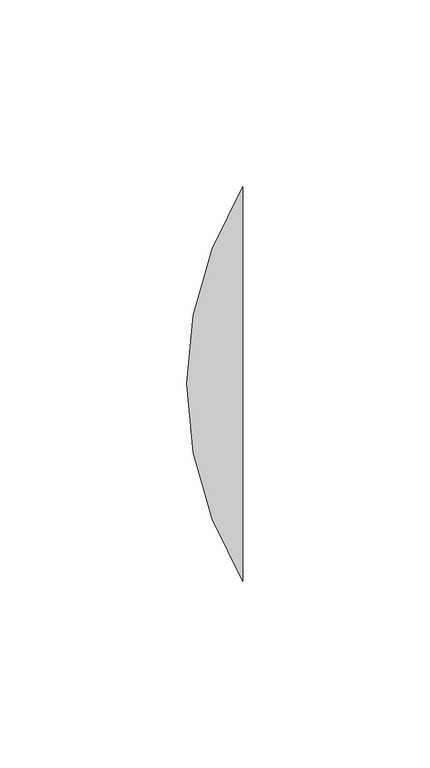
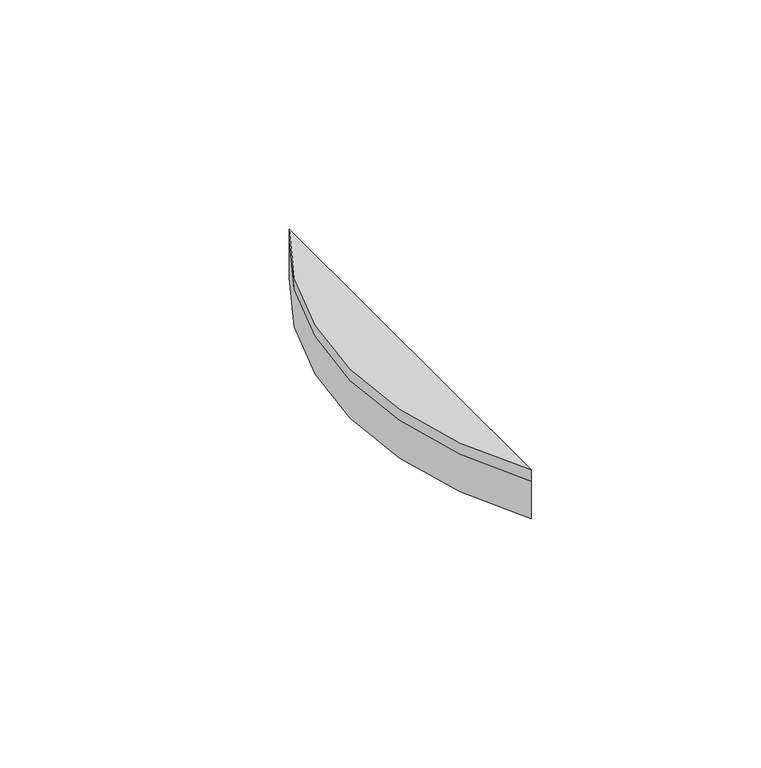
"""IFC4 building model written with IfcOpenShell, lengths in millimetres: proxy geometry, FilzFelt_Fish_Block : Fish Block."""

import ifcopenshell
import ifcopenshell.guid

model = None  # the IFC model being written
_history = None  # IfcOwnerHistory: only IFC2X3 demands one
_inside = {}  # id of a spatial element -> (the spatial element, [elements in it])
_under = {}  # id of a project, library or spatial element -> (it, [spatial elements below it])
_declared = {}  # id of a project -> (the project, [libraries it declares])
_typed = {}  # id of a type object -> (the type object, [elements of that type])
_made_of = {}  # id of a material, layer set ... -> (it, [elements and type objects made of it])


def new_model(schema):
    """Start an empty IFC model of exactly this schema.

    Asked for "IFC4X3", IfcOpenShell would pick the latest addendum, in which some entities
    have other attributes; the version numbers below select the first issue.
    IFC2X3 requires an IfcOwnerHistory on every rooted entity: one is made here for all.
    """
    global model, _history
    if schema == "IFC4X3":
        model = ifcopenshell.file(schema_version=(4, 3, 0, 0))
    else:
        model = ifcopenshell.file(schema=schema)
    _inside.clear()
    _under.clear()
    _declared.clear()
    _typed.clear()
    _made_of.clear()
    _history = None
    if model.schema == "IFC2X3":
        org = make("IfcOrganization", Name="unknown")
        user = make(
            "IfcPersonAndOrganization",
            ThePerson=make("IfcPerson", FamilyName="unknown"),
            TheOrganization=org,
        )
        app = make(
            "IfcApplication",
            ApplicationDeveloper=org,
            Version="unknown",
            ApplicationFullName="unknown",
            ApplicationIdentifier="unknown",
        )
        _history = make(
            "IfcOwnerHistory",
            OwningUser=user,
            OwningApplication=app,
            ChangeAction="ADDED",
            CreationDate=0,
        )
    return model


def make(cls, **values):
    """One entity of the class cls with the attributes given. An attribute that is None is left unset."""
    return model.create_entity(
        cls, **{name: value for name, value in values.items() if value is not None}
    )


def rooted(cls, **values):
    """An entity with a GlobalId (a new one), such as an element, a storey or a relation."""
    return make(cls, GlobalId=ifcopenshell.guid.new(), OwnerHistory=_history, **values)


def si_unit(unit_type, name, prefix=None):
    """IfcSIUnit, for example si_unit("LENGTHUNIT", "METRE", prefix="MILLI")."""
    return make("IfcSIUnit", UnitType=unit_type, Prefix=prefix, Name=name)


def assignment(units):
    """IfcUnitAssignment: the units of a project."""
    return None if units is None else make("IfcUnitAssignment", Units=units)


def point(xyz):
    """IfcCartesianPoint."""
    return None if xyz is None else make("IfcCartesianPoint", Coordinates=xyz)


def direction(xyz):
    """IfcDirection."""
    return None if xyz is None else make("IfcDirection", DirectionRatios=xyz)


def frame(location, z_axis=None, x_axis=None):
    """IfcAxis2Placement3D, a coordinate frame: its origin and axes. An axis left out is left unset."""
    return make(
        "IfcAxis2Placement3D",
        Location=point(location),
        Axis=direction(z_axis),
        RefDirection=direction(x_axis),
    )


def frame_2d(location, x_axis=None):
    """IfcAxis2Placement2D, a coordinate frame in the plane: its origin and x axis."""
    return make(
        "IfcAxis2Placement2D", Location=point(location), RefDirection=direction(x_axis)
    )


def origin():
    """The frame at (0, 0, 0) with its axes left unset."""
    return frame((0.0, 0.0, 0.0))


def origin_with_axes():
    """The frame at (0, 0, 0) with the z axis (0, 0, 1) and the x axis (1, 0, 0) written out."""
    return frame((0.0, 0.0, 0.0), z_axis=(0.0, 0.0, 1.0), x_axis=(1.0, 0.0, 0.0))


def place(relative_to, where):
    """IfcLocalPlacement: puts the frame where relative to a parent placement (None: the world)."""
    return make(
        "IfcLocalPlacement", PlacementRelTo=relative_to, RelativePlacement=where
    )


def context(
    kind, dimensions, precision=None, world=None, true_north=None, identifier=None
):
    """IfcGeometricRepresentationContext, for example the 3D "Model" context."""
    return make(
        "IfcGeometricRepresentationContext",
        ContextIdentifier=identifier,
        ContextType=kind,
        CoordinateSpaceDimension=dimensions,
        Precision=precision,
        WorldCoordinateSystem=world,
        TrueNorth=true_north,
    )


def project(units=None, contexts=None):
    """IfcProject with its units and contexts."""
    return rooted(
        "IfcProject",
        Name="project",
        RepresentationContexts=contexts,
        UnitsInContext=assignment(units),
    )


def spatial(cls, under=None, at=None, **own):
    """A site, building, storey or space (cls), placed at a placement, below another one or the project."""
    s = rooted(cls, ObjectPlacement=at, **own)
    if under is not None:
        _under.setdefault(under.id(), (under, []))[1].append(s)
    return s


def polyline(points):
    """IfcPolyline through the points."""
    return make("IfcPolyline", Points=[point(p) for p in points])


def circle_curve(where, radius):
    """IfcCircle in the frame where."""
    return make("IfcCircle", Position=where, Radius=radius)


def trimmed(basis, trim1, trim2, sense, master):
    """IfcTrimmedCurve: the piece of a basis curve between two trims."""
    return make(
        "IfcTrimmedCurve",
        BasisCurve=basis,
        Trim1=trim1,
        Trim2=trim2,
        SenseAgreement=sense,
        MasterRepresentation=master,
    )


def segment(curve, same_sense, transition):
    """IfcCompositeCurveSegment."""
    return make(
        "IfcCompositeCurveSegment",
        Transition=transition,
        SameSense=same_sense,
        ParentCurve=curve,
    )


def composite_curve(segments, self_intersect=None):
    """IfcCompositeCurve: segments joined end to end."""
    return make("IfcCompositeCurve", Segments=segments, SelfIntersect=self_intersect)


def outline(outer, holes=None, kind="AREA"):
    """IfcArbitraryClosedProfileDef: a profile drawn as a closed curve; with holes, ...WithVoids."""
    if holes is None:
        return make("IfcArbitraryClosedProfileDef", ProfileType=kind, OuterCurve=outer)
    return make(
        "IfcArbitraryProfileDefWithVoids",
        ProfileType=kind,
        OuterCurve=outer,
        InnerCurves=holes,
    )


def extrude(swept, where, along, depth):
    """IfcExtrudedAreaSolid: the profile swept, set in the frame where, extruded along a direction by depth."""
    return make(
        "IfcExtrudedAreaSolid",
        SweptArea=swept,
        Position=where,
        ExtrudedDirection=direction(along),
        Depth=depth,
    )


def shape(context_of_items, identifier, shape_type, items):
    """IfcShapeRepresentation: the items that make up one representation, for example the "Body"."""
    return make(
        "IfcShapeRepresentation",
        ContextOfItems=context_of_items,
        RepresentationIdentifier=identifier,
        RepresentationType=shape_type,
        Items=items,
    )


def source(mapping_origin, context_of_items, identifier, shape_type, items):
    """IfcRepresentationMap: a shape defined once, which mapped items show again and again."""
    return make(
        "IfcRepresentationMap",
        MappingOrigin=mapping_origin,
        MappedRepresentation=shape(context_of_items, identifier, shape_type, items),
    )


def transform(
    local_origin,
    x_axis=None,
    y_axis=None,
    z_axis=None,
    scale=None,
    scale2=None,
    scale3=None,
    uniform=True,
):
    """IfcCartesianTransformationOperator3D, or its non-uniform kind. x_axis, y_axis, z_axis: its Axis1, 2, 3."""
    if uniform:
        return make(
            "IfcCartesianTransformationOperator3D",
            Axis1=direction(x_axis),
            Axis2=direction(y_axis),
            LocalOrigin=point(local_origin),
            Scale=scale,
            Axis3=direction(z_axis),
        )
    return make(
        "IfcCartesianTransformationOperator3DnonUniform",
        Axis1=direction(x_axis),
        Axis2=direction(y_axis),
        LocalOrigin=point(local_origin),
        Scale=scale,
        Axis3=direction(z_axis),
        Scale2=scale2,
        Scale3=scale3,
    )


def mapped(mapping_source, mapping_target):
    """IfcMappedItem: shows the shape of a source again, moved by a transform."""
    return make(
        "IfcMappedItem", MappingSource=mapping_source, MappingTarget=mapping_target
    )


def made_of(thing, what):
    """Note that an element or type object is made of a material, layer set ...; save() writes the relation."""
    if what is not None:
        _made_of.setdefault(what.id(), (what, []))[1].append(thing)
    return thing


def element(
    cls,
    number,
    at=None,
    inside=None,
    cuts=None,
    type_object=None,
    material=None,
    context=None,
    identifier="Body",
    shape_type=None,
    held_by="IfcProductDefinitionShape",
    body=None,
    shapes=None,
    **own,
):
    """One element of the class cls, such as IfcWall. Its Tag is "e" and its number.

    at: its placement. inside: the storey or other place that contains it. cuts: it is an
    opening in that element (IfcRelVoidsElement). A single representation is given by context,
    identifier, shape_type and body (its items); several are given by shapes. held_by: the class
    of the entity that holds the representations. save() writes the other relations.
    """
    e = rooted(cls, Tag="e%d" % number, ObjectPlacement=at, **own)
    if body is not None:
        shapes = [shape(context, identifier, shape_type, body)]
    if shapes is not None:
        e.Representation = make(held_by, Representations=shapes)
    if inside is not None:
        _inside.setdefault(inside.id(), (inside, []))[1].append(e)
    if cuts is not None:
        rooted(
            "IfcRelVoidsElement", RelatingBuildingElement=cuts, RelatedOpeningElement=e
        )
    if type_object is not None:
        _typed.setdefault(type_object.id(), (type_object, []))[1].append(e)
    return made_of(e, material)


def aggregate(whole, parts):
    """IfcRelAggregates: a whole, such as a stair, and the parts it consists of."""
    return rooted("IfcRelAggregates", RelatingObject=whole, RelatedObjects=parts)


def save(model, path):
    """Write the relations noted so far, then the file.

    IfcRelAggregates (storeys below a building ...), IfcRelContainedInSpatialStructure (elements
    in a storey), IfcRelDefinesByType, IfcRelAssociatesMaterial and IfcRelDeclares: one each for
    every whole, place, type object, material and project.
    """
    for whole, parts in _under.values():
        aggregate(whole, parts)
    for where, things in _inside.values():
        rooted(
            "IfcRelContainedInSpatialStructure",
            RelatedElements=things,
            RelatingStructure=where,
        )
    for kind, things in _typed.values():
        rooted("IfcRelDefinesByType", RelatedObjects=things, RelatingType=kind)
    for what, things in _made_of.values():
        rooted("IfcRelAssociatesMaterial", RelatedObjects=things, RelatingMaterial=what)
    for by, libraries in _declared.values():
        rooted("IfcRelDeclares", RelatingContext=by, RelatedDefinitions=libraries)
    model.write(path)


def specialty_equipment_e37880f2(model_context):
    return source(origin(), model_context, "Body", "SweptSolid", [
        extrude(outline(composite_curve([segment(trimmed(circle_curve(frame_2d((19.5151403, 0.0)), 100.2293629), [point((-65.6962821, -52.7725183))], [point((-65.6962821, 52.7725183))], False, "CARTESIAN"), True, "CONTINUOUS"), segment(polyline([(-65.6962821, 52.7725183), (-65.6962821, -52.7725183)]), True, "CONTINUOUS")], self_intersect=False)), frame((0.0, 0.0, 10.0210937), z_axis=(0.0, 0.0, 1.0), x_axis=(1.0, 0.0, 0.0)), (0.0, 0.0, 1.0), 2.9765625),
        extrude(outline(composite_curve([segment(trimmed(circle_curve(frame_2d((19.5151403, 0.0)), 100.2293629), [point((-65.6962821, -52.7725183))], [point((-65.6962821, 52.7725183))], False, "CARTESIAN"), True, "CONTINUOUS"), segment(polyline([(-65.6962821, 52.7725183), (-65.6962821, -52.7725183)]), True, "CONTINUOUS")], self_intersect=False)), origin_with_axes(), (0.0, 0.0, 1.0), 10.0210938),
    ])


if __name__ == "__main__":
    model = new_model("IFC4")
    model_context = context("Model", 3, world=origin())
    ifc_project = project(units=[si_unit("LENGTHUNIT", "METRE", prefix="MILLI")], contexts=[model_context])
    site = spatial("IfcSite", under=ifc_project)
    building = spatial("IfcBuilding", under=site)
    placement = place(None, origin())
    specialty_equipment_shape = specialty_equipment_e37880f2(model_context)
    element("IfcBuildingElementProxy", 1, Name="FilzFelt_Fish_Block : Fish Block", ObjectType="FilzFelt_Fish_Block : Fish Block", at=placement, inside=building, context=model_context, shape_type="MappedRepresentation", body=[
        mapped(specialty_equipment_shape, transform((0.0, 0.0, 0.0), x_axis=(1.0, 0.0, 0.0), y_axis=(0.0, 1.0, 0.0), z_axis=(0.0, 0.0, 1.0))),
    ])
    save(model, "model.ifc")
